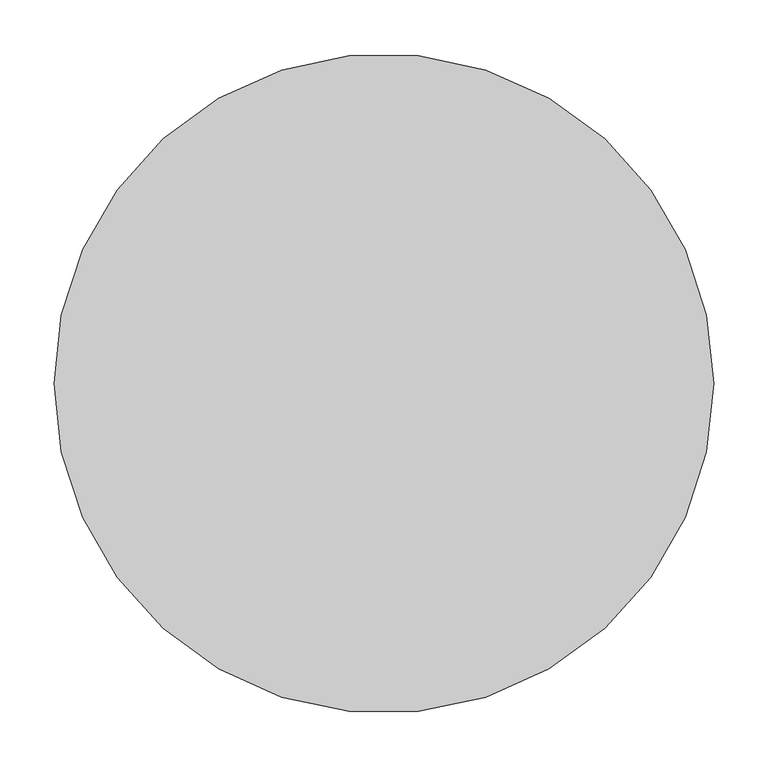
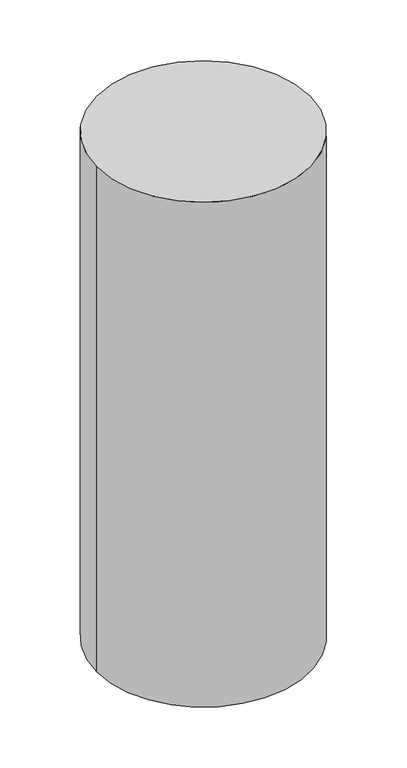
"""IFC4 building model written with IfcOpenShell, lengths in millimetres: flow terminal geometry, Chauffe eau : Chauffe eau."""

import ifcopenshell
import ifcopenshell.guid

model = None  # the IFC model being written
_history = None  # IfcOwnerHistory: only IFC2X3 demands one
_inside = {}  # id of a spatial element -> (the spatial element, [elements in it])
_under = {}  # id of a project, library or spatial element -> (it, [spatial elements below it])
_declared = {}  # id of a project -> (the project, [libraries it declares])
_typed = {}  # id of a type object -> (the type object, [elements of that type])
_made_of = {}  # id of a material, layer set ... -> (it, [elements and type objects made of it])


def new_model(schema):
    """Start an empty IFC model of exactly this schema.

    Asked for "IFC4X3", IfcOpenShell would pick the latest addendum, in which some entities
    have other attributes; the version numbers below select the first issue.
    IFC2X3 requires an IfcOwnerHistory on every rooted entity: one is made here for all.
    """
    global model, _history
    if schema == "IFC4X3":
        model = ifcopenshell.file(schema_version=(4, 3, 0, 0))
    else:
        model = ifcopenshell.file(schema=schema)
    _inside.clear()
    _under.clear()
    _declared.clear()
    _typed.clear()
    _made_of.clear()
    _history = None
    if model.schema == "IFC2X3":
        org = make("IfcOrganization", Name="unknown")
        user = make(
            "IfcPersonAndOrganization",
            ThePerson=make("IfcPerson", FamilyName="unknown"),
            TheOrganization=org,
        )
        app = make(
            "IfcApplication",
            ApplicationDeveloper=org,
            Version="unknown",
            ApplicationFullName="unknown",
            ApplicationIdentifier="unknown",
        )
        _history = make(
            "IfcOwnerHistory",
            OwningUser=user,
            OwningApplication=app,
            ChangeAction="ADDED",
            CreationDate=0,
        )
    return model


def make(cls, **values):
    """One entity of the class cls with the attributes given. An attribute that is None is left unset."""
    return model.create_entity(
        cls, **{name: value for name, value in values.items() if value is not None}
    )


def rooted(cls, **values):
    """An entity with a GlobalId (a new one), such as an element, a storey or a relation."""
    return make(cls, GlobalId=ifcopenshell.guid.new(), OwnerHistory=_history, **values)


def si_unit(unit_type, name, prefix=None):
    """IfcSIUnit, for example si_unit("LENGTHUNIT", "METRE", prefix="MILLI")."""
    return make("IfcSIUnit", UnitType=unit_type, Prefix=prefix, Name=name)


def assignment(units):
    """IfcUnitAssignment: the units of a project."""
    return None if units is None else make("IfcUnitAssignment", Units=units)


def point(xyz):
    """IfcCartesianPoint."""
    return None if xyz is None else make("IfcCartesianPoint", Coordinates=xyz)


def direction(xyz):
    """IfcDirection."""
    return None if xyz is None else make("IfcDirection", DirectionRatios=xyz)


def frame(location, z_axis=None, x_axis=None):
    """IfcAxis2Placement3D, a coordinate frame: its origin and axes. An axis left out is left unset."""
    return make(
        "IfcAxis2Placement3D",
        Location=point(location),
        Axis=direction(z_axis),
        RefDirection=direction(x_axis),
    )


def frame_2d(location, x_axis=None):
    """IfcAxis2Placement2D, a coordinate frame in the plane: its origin and x axis."""
    return make(
        "IfcAxis2Placement2D", Location=point(location), RefDirection=direction(x_axis)
    )


def origin():
    """The frame at (0, 0, 0) with its axes left unset."""
    return frame((0.0, 0.0, 0.0))


def origin_with_axes():
    """The frame at (0, 0, 0) with the z axis (0, 0, 1) and the x axis (1, 0, 0) written out."""
    return frame((0.0, 0.0, 0.0), z_axis=(0.0, 0.0, 1.0), x_axis=(1.0, 0.0, 0.0))


def origin_2d():
    """The frame at (0, 0) in the plane with its x axis left unset."""
    return frame_2d((0.0, 0.0))


def place(relative_to, where):
    """IfcLocalPlacement: puts the frame where relative to a parent placement (None: the world)."""
    return make(
        "IfcLocalPlacement", PlacementRelTo=relative_to, RelativePlacement=where
    )


def context(
    kind, dimensions, precision=None, world=None, true_north=None, identifier=None
):
    """IfcGeometricRepresentationContext, for example the 3D "Model" context."""
    return make(
        "IfcGeometricRepresentationContext",
        ContextIdentifier=identifier,
        ContextType=kind,
        CoordinateSpaceDimension=dimensions,
        Precision=precision,
        WorldCoordinateSystem=world,
        TrueNorth=true_north,
    )


def project(units=None, contexts=None):
    """IfcProject with its units and contexts."""
    return rooted(
        "IfcProject",
        Name="project",
        RepresentationContexts=contexts,
        UnitsInContext=assignment(units),
    )


def spatial(cls, under=None, at=None, **own):
    """A site, building, storey or space (cls), placed at a placement, below another one or the project."""
    s = rooted(cls, ObjectPlacement=at, **own)
    if under is not None:
        _under.setdefault(under.id(), (under, []))[1].append(s)
    return s


def circle_curve(where, radius):
    """IfcCircle in the frame where."""
    return make("IfcCircle", Position=where, Radius=radius)


def trimmed(basis, trim1, trim2, sense, master):
    """IfcTrimmedCurve: the piece of a basis curve between two trims."""
    return make(
        "IfcTrimmedCurve",
        BasisCurve=basis,
        Trim1=trim1,
        Trim2=trim2,
        SenseAgreement=sense,
        MasterRepresentation=master,
    )


def segment(curve, same_sense, transition):
    """IfcCompositeCurveSegment."""
    return make(
        "IfcCompositeCurveSegment",
        Transition=transition,
        SameSense=same_sense,
        ParentCurve=curve,
    )


def composite_curve(segments, self_intersect=None):
    """IfcCompositeCurve: segments joined end to end."""
    return make("IfcCompositeCurve", Segments=segments, SelfIntersect=self_intersect)


def outline(outer, holes=None, kind="AREA"):
    """IfcArbitraryClosedProfileDef: a profile drawn as a closed curve; with holes, ...WithVoids."""
    if holes is None:
        return make("IfcArbitraryClosedProfileDef", ProfileType=kind, OuterCurve=outer)
    return make(
        "IfcArbitraryProfileDefWithVoids",
        ProfileType=kind,
        OuterCurve=outer,
        InnerCurves=holes,
    )


def extrude(swept, where, along, depth):
    """IfcExtrudedAreaSolid: the profile swept, set in the frame where, extruded along a direction by depth."""
    return make(
        "IfcExtrudedAreaSolid",
        SweptArea=swept,
        Position=where,
        ExtrudedDirection=direction(along),
        Depth=depth,
    )


def shape(context_of_items, identifier, shape_type, items):
    """IfcShapeRepresentation: the items that make up one representation, for example the "Body"."""
    return make(
        "IfcShapeRepresentation",
        ContextOfItems=context_of_items,
        RepresentationIdentifier=identifier,
        RepresentationType=shape_type,
        Items=items,
    )


def source(mapping_origin, context_of_items, identifier, shape_type, items):
    """IfcRepresentationMap: a shape defined once, which mapped items show again and again."""
    return make(
        "IfcRepresentationMap",
        MappingOrigin=mapping_origin,
        MappedRepresentation=shape(context_of_items, identifier, shape_type, items),
    )


def transform(
    local_origin,
    x_axis=None,
    y_axis=None,
    z_axis=None,
    scale=None,
    scale2=None,
    scale3=None,
    uniform=True,
):
    """IfcCartesianTransformationOperator3D, or its non-uniform kind. x_axis, y_axis, z_axis: its Axis1, 2, 3."""
    if uniform:
        return make(
            "IfcCartesianTransformationOperator3D",
            Axis1=direction(x_axis),
            Axis2=direction(y_axis),
            LocalOrigin=point(local_origin),
            Scale=scale,
            Axis3=direction(z_axis),
        )
    return make(
        "IfcCartesianTransformationOperator3DnonUniform",
        Axis1=direction(x_axis),
        Axis2=direction(y_axis),
        LocalOrigin=point(local_origin),
        Scale=scale,
        Axis3=direction(z_axis),
        Scale2=scale2,
        Scale3=scale3,
    )


def mapped(mapping_source, mapping_target):
    """IfcMappedItem: shows the shape of a source again, moved by a transform."""
    return make(
        "IfcMappedItem", MappingSource=mapping_source, MappingTarget=mapping_target
    )


def made_of(thing, what):
    """Note that an element or type object is made of a material, layer set ...; save() writes the relation."""
    if what is not None:
        _made_of.setdefault(what.id(), (what, []))[1].append(thing)
    return thing


def element(
    cls,
    number,
    at=None,
    inside=None,
    cuts=None,
    type_object=None,
    material=None,
    context=None,
    identifier="Body",
    shape_type=None,
    held_by="IfcProductDefinitionShape",
    body=None,
    shapes=None,
    **own,
):
    """One element of the class cls, such as IfcWall. Its Tag is "e" and its number.

    at: its placement. inside: the storey or other place that contains it. cuts: it is an
    opening in that element (IfcRelVoidsElement). A single representation is given by context,
    identifier, shape_type and body (its items); several are given by shapes. held_by: the class
    of the entity that holds the representations. save() writes the other relations.
    """
    e = rooted(cls, Tag="e%d" % number, ObjectPlacement=at, **own)
    if body is not None:
        shapes = [shape(context, identifier, shape_type, body)]
    if shapes is not None:
        e.Representation = make(held_by, Representations=shapes)
    if inside is not None:
        _inside.setdefault(inside.id(), (inside, []))[1].append(e)
    if cuts is not None:
        rooted(
            "IfcRelVoidsElement", RelatingBuildingElement=cuts, RelatedOpeningElement=e
        )
    if type_object is not None:
        _typed.setdefault(type_object.id(), (type_object, []))[1].append(e)
    return made_of(e, material)


def aggregate(whole, parts):
    """IfcRelAggregates: a whole, such as a stair, and the parts it consists of."""
    return rooted("IfcRelAggregates", RelatingObject=whole, RelatedObjects=parts)


def save(model, path):
    """Write the relations noted so far, then the file.

    IfcRelAggregates (storeys below a building ...), IfcRelContainedInSpatialStructure (elements
    in a storey), IfcRelDefinesByType, IfcRelAssociatesMaterial and IfcRelDeclares: one each for
    every whole, place, type object, material and project.
    """
    for whole, parts in _under.values():
        aggregate(whole, parts)
    for where, things in _inside.values():
        rooted(
            "IfcRelContainedInSpatialStructure",
            RelatedElements=things,
            RelatingStructure=where,
        )
    for kind, things in _typed.values():
        rooted("IfcRelDefinesByType", RelatedObjects=things, RelatingType=kind)
    for what, things in _made_of.values():
        rooted("IfcRelAssociatesMaterial", RelatedObjects=things, RelatingMaterial=what)
    for by, libraries in _declared.values():
        rooted("IfcRelDeclares", RelatingContext=by, RelatedDefinitions=libraries)
    model.write(path)


def flow_terminal_ca0f13d3(model_context):
    return source(origin(), model_context, "Body", "SweptSolid", [
        extrude(outline(composite_curve([segment(trimmed(circle_curve(origin_2d(), 305.0), [point((-305.0, 0.0))], [point((305.0, 0.0))], False, "CARTESIAN"), True, "CONTINUOUS"), segment(trimmed(circle_curve(origin_2d(), 305.0), [point((305.0, 0.0))], [point((-305.0, 0.0))], False, "CARTESIAN"), True, "CONTINUOUS")], self_intersect=False)), origin_with_axes(), (0.0, 0.0, 1.0), 1525.0),
    ])


if __name__ == "__main__":
    model = new_model("IFC4")
    model_context = context("Model", 3, world=origin())
    ifc_project = project(units=[si_unit("LENGTHUNIT", "METRE", prefix="MILLI")], contexts=[model_context])
    site = spatial("IfcSite", under=ifc_project)
    building = spatial("IfcBuilding", under=site)
    placement = place(None, origin())
    flow_terminal_shape = flow_terminal_ca0f13d3(model_context)
    element("IfcFlowTerminal", 1, ObjectType="Chauffe eau : Chauffe eau", at=placement, inside=building, context=model_context, shape_type="MappedRepresentation", body=[
        mapped(flow_terminal_shape, transform((0.0, 0.0, 0.0), x_axis=(1.0, 0.0, 0.0), y_axis=(0.0, 1.0, 0.0), z_axis=(0.0, 0.0, 1.0))),
    ])
    save(model, "model.ifc")
